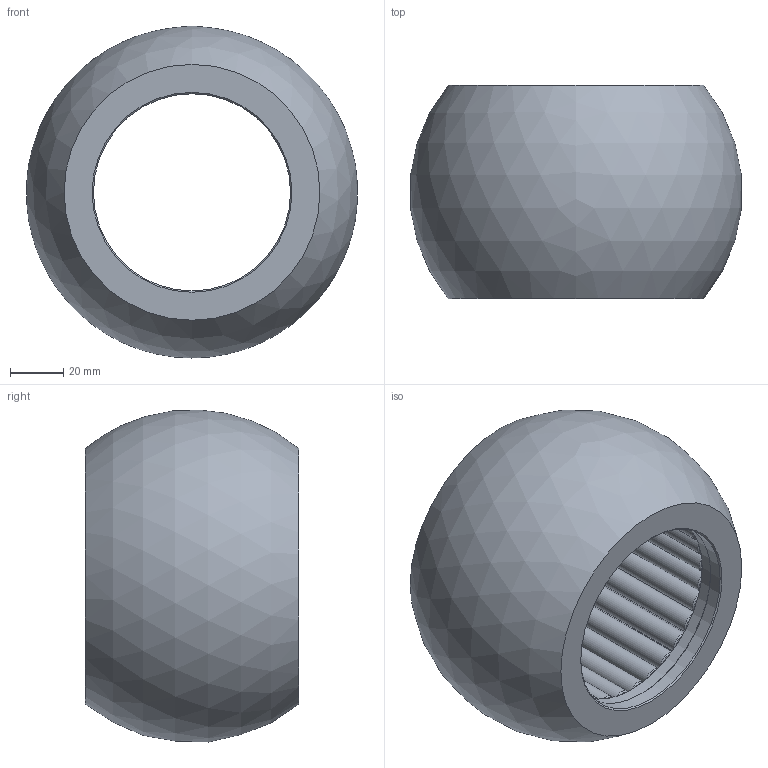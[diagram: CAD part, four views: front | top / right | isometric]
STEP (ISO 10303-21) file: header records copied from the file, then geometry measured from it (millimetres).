
FILE_DESCRIPTION(('STEP AP214'),'1');
FILE_NAME('C:/Projets/Serie 15.xx.xx/15.xx.74.step','2011-11-14T14:49:35',(' '),(' '),'Spatial InterOp 3D',' ',' ');
FILE_SCHEMA(('automotive_design'));
Length unit declared in the file: metre
Products named in the file (34): frette; rotule; @2711; @2721
Bounding box: 124.21 x 80.03 x 124.63 mm (x, y, z)
Volume: 463976.5 mm3; surface area: 165586.4 mm2
Topology: 34 solids, 34 shells, 416 faces, 788 edges, 504 vertices
Faces by surface type: cylinder 161, plane 132, cone 122, sphere 1
Full cylindrical faces by diameter (mm): 2.8 x60, 3.5 x60, 8 x30, 74 x2, 75 x2, 89 x2, 90 x3, 97 x2
Entity records: 12719 total; most frequent: DIRECTION 1792, CARTESIAN_POINT 1342, AXIS2_PLACEMENT_3D 896, EDGE_LOOP 892, ORIENTED_EDGE 892, FACE_OUTER_BOUND 578, EDGE_CURVE 446, VERTEX_POINT 446
